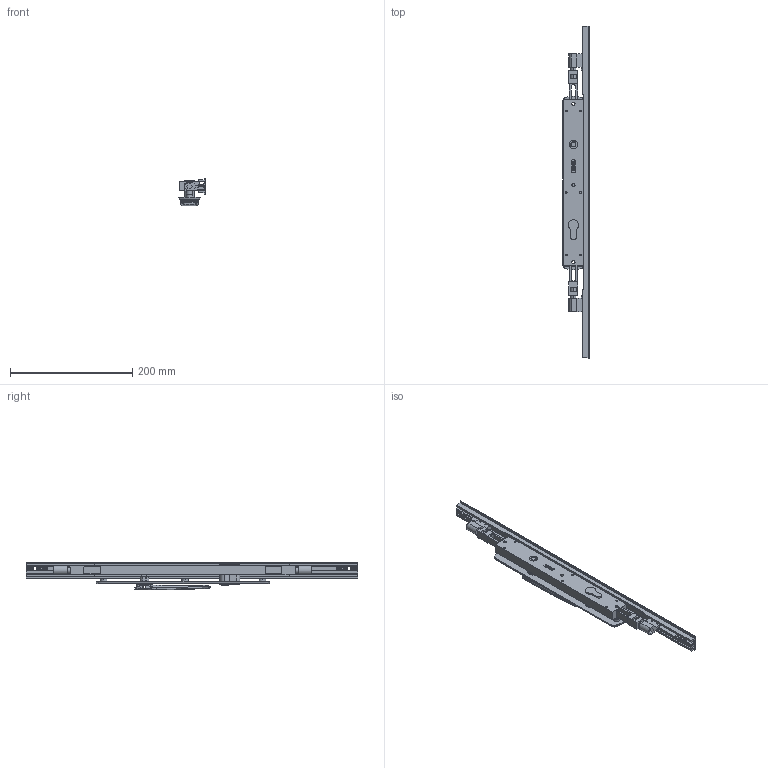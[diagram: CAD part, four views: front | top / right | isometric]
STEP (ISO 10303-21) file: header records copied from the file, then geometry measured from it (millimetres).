
FILE_DESCRIPTION (( 'STEP AP214' ), '1' );
FILE_NAME ('TPL-W-EU-618-L 06Nov2024.STEP', '2024-11-27T04:01:04', ( '' ), ( '' ), 'SwSTEP 2.0', 'SolidWorks 2023', '' );
FILE_SCHEMA (( 'AUTOMOTIVE_DESIGN' ));
Length unit declared in the file: millimetre
Products named in the file (19): Copy of LKC-531 Lock twinpoint transmission rod wood system^TPL-W-EU-118 04Nov2024_Standard Range (588.7mm); TPL-W-EU-618-L 06Nov2024; Copy of TPLGen2 lock body keyed^Copy of TPLGen2 lock body keyed assembly_TPL-W-EU-118 04Nov2024; Copy of LKC-585 Rotator body zinc^Copy of TPGen2 handle keyed internal zinc - simplified_TPL-W-EU-118 04Nov2024; Copy of TPL-W-EU-130 04Nov2024^TPL-W-EU-118 04Nov2024_TPL-022 Left; Copy of LKC-586 Spindle square 8mm with M4 hole^Copy of TPGen2 handle keyed internal zinc - simplified_TPL-W-EU-118 04Nov2024_25mm; Copy of LKC-512 Escutcheon plate keyed internal 285mm long zinc - simplified^Copy of TPGen2 handle keyed internal zinc - simplified_TPL-W-EU-118 04Nov2024; Copy of LKC-584 Pivot body zinc - simplified^Copy of TPGen2 handle keyed internal zinc - simplified_TPL-W-EU-118 04Nov2024; Copy of Adapter CnE - simplfied^TPL-W-EU-118 04Nov2024_26mm backset; Copy of Copy of LKC-531 Lock twinpoint transmission rod wood system^TPL-W-EU-118 04Nov2024_Standard Range 2891.7mm; Bolt.step; Copy of COV-112-A Cover A suit TPLGen2 standard range^TPL-W-EU-118 04Nov2024_1335mm; Copy of TPGen2 handle keyed internal zinc - simplified^TPL-W-EU-118 04Nov2024_Vertical; Copy of Adapter DnF - simplfied^TPL-W-EU-118 04Nov2024_26mm backset; Copy of TPLGen2 push rod - simplified^Copy of TPLGen2 lock body keyed assembly_TPL-W-EU-118 04Nov2024_Female thread M10; Copy of COV-112-C Cover C TPLGen2 Lock body^TPL-W-EU-118 04Nov2024; Copy of TPLGen2 lock body keyed assembly^TPL-W-EU-118 04Nov2024_Bolts extended; Copy of COV-112-B Cover B suit TPLGen2 standard range^TPL-W-EU-118 04Nov2024_2870mm; Copy of LKC-505 Swing handle zinc - simplified^Copy of TPGen2 handle keyed internal zinc - simplified_TPL-W-EU-118 04Nov2024
Assembly tree (16 placements, depth 3):
  TPL-W-EU-618-L 06Nov2024
    Copy of TPLGen2 lock body keyed assembly^TPL-W-EU-118 04Nov2024_Bolts extended
      Copy of TPLGen2 lock body keyed^Copy of TPLGen2 lock body keyed assembly_TPL-W-EU-118 04Nov2024
      Copy of TPLGen2 push rod - simplified^Copy of TPLGen2 lock body keyed assembly_TPL-W-EU-118 04Nov2024_Female thread M10  x2
    Copy of TPGen2 handle keyed internal zinc - simplified^TPL-W-EU-118 04Nov2024_Vertical
      Copy of LKC-512 Escutcheon plate keyed internal 285mm long zinc - simplified^Copy of TPGen2 handle keyed internal zinc - simplified_TPL-W-EU-118 04Nov2024
      Copy of LKC-505 Swing handle zinc - simplified^Copy of TPGen2 handle keyed internal zinc - simplified_TPL-W-EU-118 04Nov2024
      Copy of LKC-585 Rotator body zinc^Copy of TPGen2 handle keyed internal zinc - simplified_TPL-W-EU-118 04Nov2024
      Copy of LKC-586 Spindle square 8mm with M4 hole^Copy of TPGen2 handle keyed internal zinc - simplified_TPL-W-EU-118 04Nov2024_25mm
      Copy of LKC-584 Pivot body zinc - simplified^Copy of TPGen2 handle keyed internal zinc - simplified_TPL-W-EU-118 04Nov2024
    Copy of TPL-W-EU-130 04Nov2024^TPL-W-EU-118 04Nov2024_TPL-022 Left
    Copy of COV-112-C Cover C TPLGen2 Lock body^TPL-W-EU-118 04Nov2024
    Copy of LKC-531 Lock twinpoint transmission rod wood system^TPL-W-EU-118 04Nov2024_Standard Range (588.7mm)
    Copy of Copy of LKC-531 Lock twinpoint transmission rod wood system^TPL-W-EU-118 04Nov2024_Standard Range 2891.7mm
    Copy of Adapter CnE - simplfied^TPL-W-EU-118 04Nov2024_26mm backset
    Copy of Adapter DnF - simplfied^TPL-W-EU-118 04Nov2024_26mm backset
  Bolt.step
  Copy of COV-112-A Cover A suit TPLGen2 standard range^TPL-W-EU-118 04Nov2024_1335mm
  Copy of COV-112-B Cover B suit TPLGen2 standard range^TPL-W-EU-118 04Nov2024_2870mm
Bounding box: 43.5 x 544 x 45.86 mm (x, y, z)
Volume: 281244 mm3; surface area: 138721.9 mm2
Topology: 14 solids, 14 shells, 921 faces, 2293 edges, 1430 vertices
Faces by surface type: plane 325, bspline 241, cylinder 230, cone 71, torus 46, sphere 8
Entity records: 33110 total; most frequent: CARTESIAN_POINT 13052, ORIENTED_EDGE 4394, DIRECTION 3632, EDGE_CURVE 2197, VERTEX_POINT 1370, AXIS2_PLACEMENT_3D 1336, EDGE_LOOP 985, VECTOR 960
